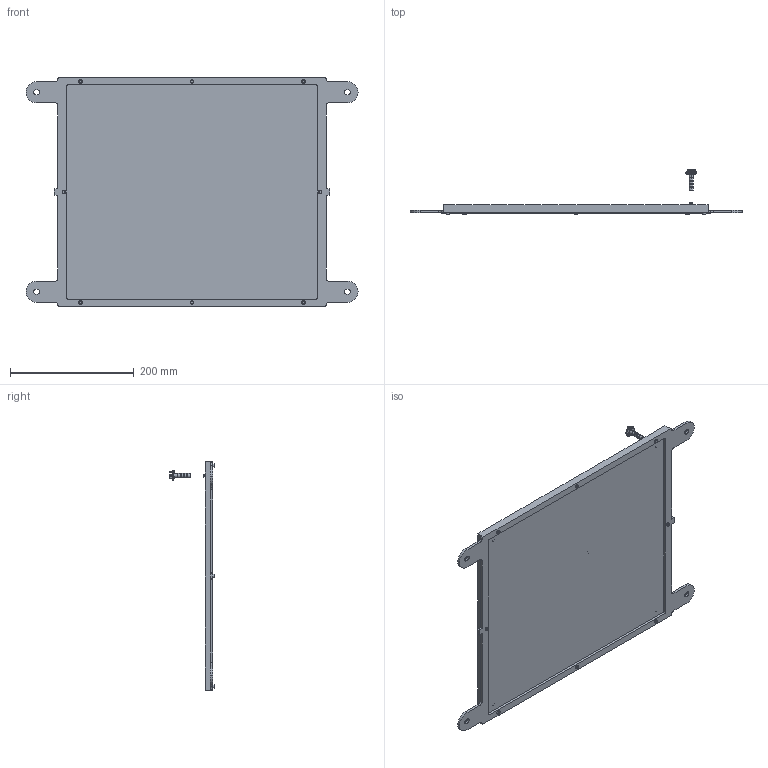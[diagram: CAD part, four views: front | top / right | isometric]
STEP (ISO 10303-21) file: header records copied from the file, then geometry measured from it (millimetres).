
FILE_DESCRIPTION (( 'STEP AP214' ), '1' );
FILE_NAME ('Asyril_CALIBRATION PLATE - 530.STEP', '2019-10-17T13:34:51', ( 'Standard' ), ( '' ), 'SwSTEP 2.0', 'SolidWorks 2017', '' );
FILE_SCHEMA (( 'AUTOMOTIVE_DESIGN' ));
Length unit declared in the file: millimetre
Products named in the file (5): Asyril_ROBOT CALIBRATION TOOL KIT - 380-530_000.102.500(option); Asyril_ROBOT CALIBRATION PIN - 380-530_000.102.255_(option); Asyril_ROBOT CALIBRATION TOOL_000.102.067_(option); Asyril_CALIBRATION PLATE - 530_000.103.193_(option); Asyril_CALIBRATION PLATE - 530
Assembly tree (4 placements, depth 3):
  Asyril_CALIBRATION PLATE - 530
    Asyril_CALIBRATION PLATE - 530_000.103.193_(option)
    Asyril_ROBOT CALIBRATION TOOL KIT - 380-530_000.102.500(option)
      Asyril_ROBOT CALIBRATION TOOL_000.102.067_(option)
      Asyril_ROBOT CALIBRATION PIN - 380-530_000.102.255_(option)
Bounding box: 536 x 72 x 370 mm (x, y, z)
Volume: 1465867.5 mm3; surface area: 363938.1 mm2
Topology: 6 solids, 14 shells, 1606 faces, 3812 edges, 2305 vertices
Faces by surface type: plane 1294, cylinder 157, cone 105, torus 48, sphere 2
Entity records: 54560 total; most frequent: CARTESIAN_POINT 9431, ORIENTED_EDGE 7602, DIRECTION 7161, EDGE_CURVE 3801, LINE 2969, VECTOR 2969, VERTEX_POINT 2302, AXIS2_PLACEMENT_3D 2096
